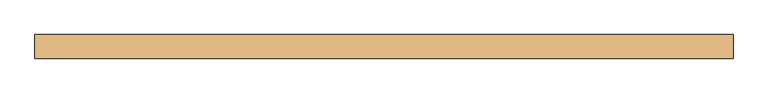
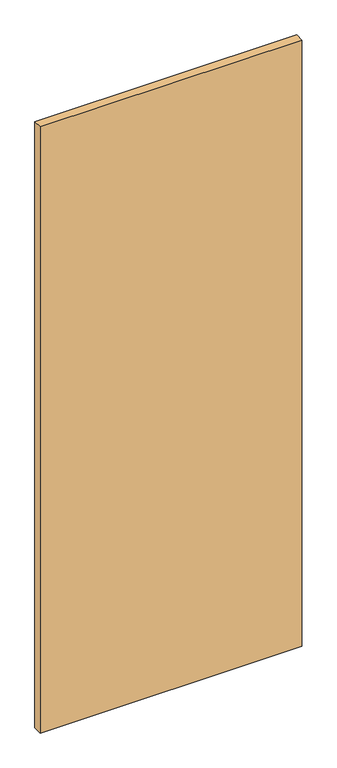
"""IFC4 building model written with IfcOpenShell, lengths in millimetres: door geometry, Planitar - Swap_Flush Panel : Planitar - Swap_Flush Panel."""

import ifcopenshell
import ifcopenshell.guid

model = None  # the IFC model being written
_history = None  # IfcOwnerHistory: only IFC2X3 demands one
_inside = {}  # id of a spatial element -> (the spatial element, [elements in it])
_under = {}  # id of a project, library or spatial element -> (it, [spatial elements below it])
_declared = {}  # id of a project -> (the project, [libraries it declares])
_typed = {}  # id of a type object -> (the type object, [elements of that type])
_made_of = {}  # id of a material, layer set ... -> (it, [elements and type objects made of it])


def new_model(schema):
    """Start an empty IFC model of exactly this schema.

    Asked for "IFC4X3", IfcOpenShell would pick the latest addendum, in which some entities
    have other attributes; the version numbers below select the first issue.
    IFC2X3 requires an IfcOwnerHistory on every rooted entity: one is made here for all.
    """
    global model, _history
    if schema == "IFC4X3":
        model = ifcopenshell.file(schema_version=(4, 3, 0, 0))
    else:
        model = ifcopenshell.file(schema=schema)
    _inside.clear()
    _under.clear()
    _declared.clear()
    _typed.clear()
    _made_of.clear()
    _history = None
    if model.schema == "IFC2X3":
        org = make("IfcOrganization", Name="unknown")
        user = make(
            "IfcPersonAndOrganization",
            ThePerson=make("IfcPerson", FamilyName="unknown"),
            TheOrganization=org,
        )
        app = make(
            "IfcApplication",
            ApplicationDeveloper=org,
            Version="unknown",
            ApplicationFullName="unknown",
            ApplicationIdentifier="unknown",
        )
        _history = make(
            "IfcOwnerHistory",
            OwningUser=user,
            OwningApplication=app,
            ChangeAction="ADDED",
            CreationDate=0,
        )
    return model


def make(cls, **values):
    """One entity of the class cls with the attributes given. An attribute that is None is left unset."""
    return model.create_entity(
        cls, **{name: value for name, value in values.items() if value is not None}
    )


def rooted(cls, **values):
    """An entity with a GlobalId (a new one), such as an element, a storey or a relation."""
    return make(cls, GlobalId=ifcopenshell.guid.new(), OwnerHistory=_history, **values)


def si_unit(unit_type, name, prefix=None):
    """IfcSIUnit, for example si_unit("LENGTHUNIT", "METRE", prefix="MILLI")."""
    return make("IfcSIUnit", UnitType=unit_type, Prefix=prefix, Name=name)


def assignment(units):
    """IfcUnitAssignment: the units of a project."""
    return None if units is None else make("IfcUnitAssignment", Units=units)


def point(xyz):
    """IfcCartesianPoint."""
    return None if xyz is None else make("IfcCartesianPoint", Coordinates=xyz)


def direction(xyz):
    """IfcDirection."""
    return None if xyz is None else make("IfcDirection", DirectionRatios=xyz)


def frame(location, z_axis=None, x_axis=None):
    """IfcAxis2Placement3D, a coordinate frame: its origin and axes. An axis left out is left unset."""
    return make(
        "IfcAxis2Placement3D",
        Location=point(location),
        Axis=direction(z_axis),
        RefDirection=direction(x_axis),
    )


def origin():
    """The frame at (0, 0, 0) with its axes left unset."""
    return frame((0.0, 0.0, 0.0))


def origin_with_axes():
    """The frame at (0, 0, 0) with the z axis (0, 0, 1) and the x axis (1, 0, 0) written out."""
    return frame((0.0, 0.0, 0.0), z_axis=(0.0, 0.0, 1.0), x_axis=(1.0, 0.0, 0.0))


def place(relative_to, where):
    """IfcLocalPlacement: puts the frame where relative to a parent placement (None: the world)."""
    return make(
        "IfcLocalPlacement", PlacementRelTo=relative_to, RelativePlacement=where
    )


def context(
    kind, dimensions, precision=None, world=None, true_north=None, identifier=None
):
    """IfcGeometricRepresentationContext, for example the 3D "Model" context."""
    return make(
        "IfcGeometricRepresentationContext",
        ContextIdentifier=identifier,
        ContextType=kind,
        CoordinateSpaceDimension=dimensions,
        Precision=precision,
        WorldCoordinateSystem=world,
        TrueNorth=true_north,
    )


def project(units=None, contexts=None):
    """IfcProject with its units and contexts."""
    return rooted(
        "IfcProject",
        Name="project",
        RepresentationContexts=contexts,
        UnitsInContext=assignment(units),
    )


def spatial(cls, under=None, at=None, **own):
    """A site, building, storey or space (cls), placed at a placement, below another one or the project."""
    s = rooted(cls, ObjectPlacement=at, **own)
    if under is not None:
        _under.setdefault(under.id(), (under, []))[1].append(s)
    return s


def polyline(points):
    """IfcPolyline through the points."""
    return make("IfcPolyline", Points=[point(p) for p in points])


def outline(outer, holes=None, kind="AREA"):
    """IfcArbitraryClosedProfileDef: a profile drawn as a closed curve; with holes, ...WithVoids."""
    if holes is None:
        return make("IfcArbitraryClosedProfileDef", ProfileType=kind, OuterCurve=outer)
    return make(
        "IfcArbitraryProfileDefWithVoids",
        ProfileType=kind,
        OuterCurve=outer,
        InnerCurves=holes,
    )


def extrude(swept, where, along, depth):
    """IfcExtrudedAreaSolid: the profile swept, set in the frame where, extruded along a direction by depth."""
    return make(
        "IfcExtrudedAreaSolid",
        SweptArea=swept,
        Position=where,
        ExtrudedDirection=direction(along),
        Depth=depth,
    )


def shape(context_of_items, identifier, shape_type, items):
    """IfcShapeRepresentation: the items that make up one representation, for example the "Body"."""
    return make(
        "IfcShapeRepresentation",
        ContextOfItems=context_of_items,
        RepresentationIdentifier=identifier,
        RepresentationType=shape_type,
        Items=items,
    )


def source(mapping_origin, context_of_items, identifier, shape_type, items):
    """IfcRepresentationMap: a shape defined once, which mapped items show again and again."""
    return make(
        "IfcRepresentationMap",
        MappingOrigin=mapping_origin,
        MappedRepresentation=shape(context_of_items, identifier, shape_type, items),
    )


def transform(
    local_origin,
    x_axis=None,
    y_axis=None,
    z_axis=None,
    scale=None,
    scale2=None,
    scale3=None,
    uniform=True,
):
    """IfcCartesianTransformationOperator3D, or its non-uniform kind. x_axis, y_axis, z_axis: its Axis1, 2, 3."""
    if uniform:
        return make(
            "IfcCartesianTransformationOperator3D",
            Axis1=direction(x_axis),
            Axis2=direction(y_axis),
            LocalOrigin=point(local_origin),
            Scale=scale,
            Axis3=direction(z_axis),
        )
    return make(
        "IfcCartesianTransformationOperator3DnonUniform",
        Axis1=direction(x_axis),
        Axis2=direction(y_axis),
        LocalOrigin=point(local_origin),
        Scale=scale,
        Axis3=direction(z_axis),
        Scale2=scale2,
        Scale3=scale3,
    )


def mapped(mapping_source, mapping_target):
    """IfcMappedItem: shows the shape of a source again, moved by a transform."""
    return make(
        "IfcMappedItem", MappingSource=mapping_source, MappingTarget=mapping_target
    )


def made_of(thing, what):
    """Note that an element or type object is made of a material, layer set ...; save() writes the relation."""
    if what is not None:
        _made_of.setdefault(what.id(), (what, []))[1].append(thing)
    return thing


def element(
    cls,
    number,
    at=None,
    inside=None,
    cuts=None,
    type_object=None,
    material=None,
    context=None,
    identifier="Body",
    shape_type=None,
    held_by="IfcProductDefinitionShape",
    body=None,
    shapes=None,
    **own,
):
    """One element of the class cls, such as IfcWall. Its Tag is "e" and its number.

    at: its placement. inside: the storey or other place that contains it. cuts: it is an
    opening in that element (IfcRelVoidsElement). A single representation is given by context,
    identifier, shape_type and body (its items); several are given by shapes. held_by: the class
    of the entity that holds the representations. save() writes the other relations.
    """
    e = rooted(cls, Tag="e%d" % number, ObjectPlacement=at, **own)
    if body is not None:
        shapes = [shape(context, identifier, shape_type, body)]
    if shapes is not None:
        e.Representation = make(held_by, Representations=shapes)
    if inside is not None:
        _inside.setdefault(inside.id(), (inside, []))[1].append(e)
    if cuts is not None:
        rooted(
            "IfcRelVoidsElement", RelatingBuildingElement=cuts, RelatedOpeningElement=e
        )
    if type_object is not None:
        _typed.setdefault(type_object.id(), (type_object, []))[1].append(e)
    return made_of(e, material)


def aggregate(whole, parts):
    """IfcRelAggregates: a whole, such as a stair, and the parts it consists of."""
    return rooted("IfcRelAggregates", RelatingObject=whole, RelatedObjects=parts)


def save(model, path):
    """Write the relations noted so far, then the file.

    IfcRelAggregates (storeys below a building ...), IfcRelContainedInSpatialStructure (elements
    in a storey), IfcRelDefinesByType, IfcRelAssociatesMaterial and IfcRelDeclares: one each for
    every whole, place, type object, material and project.
    """
    for whole, parts in _under.values():
        aggregate(whole, parts)
    for where, things in _inside.values():
        rooted(
            "IfcRelContainedInSpatialStructure",
            RelatedElements=things,
            RelatingStructure=where,
        )
    for kind, things in _typed.values():
        rooted("IfcRelDefinesByType", RelatedObjects=things, RelatingType=kind)
    for what, things in _made_of.values():
        rooted("IfcRelAssociatesMaterial", RelatedObjects=things, RelatingMaterial=what)
    for by, libraries in _declared.values():
        rooted("IfcRelDeclares", RelatingContext=by, RelatedDefinitions=libraries)
    model.write(path)


def door_3a3051ac(model_context):
    return source(origin(), model_context, "Body", "SweptSolid", [
        extrude(outline(polyline([(736.6, -25.4), (-736.6, -25.4), (-736.6, 25.4), (736.6, 25.4), (736.6, -25.4)])), origin_with_axes(), (0.0, 0.0, 1.0), 3606.8),
    ])


if __name__ == "__main__":
    model = new_model("IFC4")
    model_context = context("Model", 3, world=origin())
    ifc_project = project(units=[si_unit("LENGTHUNIT", "METRE", prefix="MILLI")], contexts=[model_context])
    site = spatial("IfcSite", under=ifc_project)
    building = spatial("IfcBuilding", under=site)
    placement = place(None, origin())
    door_shape = door_3a3051ac(model_context)
    element("IfcDoor", 1, ObjectType="Planitar - Swap_Flush Panel : Planitar - Swap_Flush Panel", at=placement, inside=building, context=model_context, shape_type="MappedRepresentation", body=[
        mapped(door_shape, transform((0.0, 0.0, 0.0), x_axis=(1.0, 0.0, 0.0), y_axis=(0.0, 1.0, 0.0), z_axis=(0.0, 0.0, 1.0))),
    ])
    save(model, "model.ifc")
